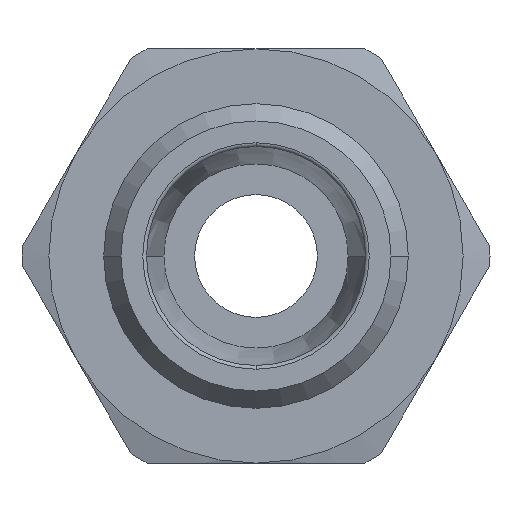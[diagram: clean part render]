
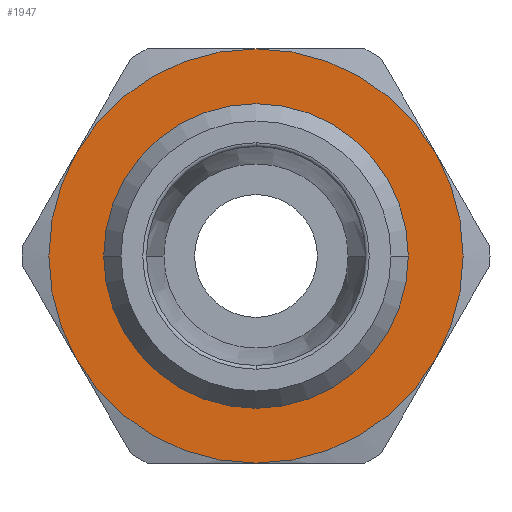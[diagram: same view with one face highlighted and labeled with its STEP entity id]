
A CAD part, left-side view. The second image highlights one B-rep face of the part: STEP entity #1947.
In plain terms, the highlighted planar face has unit normal (-1, 0, 0) as drawn and (0, 0, 1) by its records, which use the part's own axes.
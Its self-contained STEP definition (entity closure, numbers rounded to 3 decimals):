
#857=CARTESIAN_POINT('',(-9.8,0.,5.0));
#858=VERTEX_POINT('',#857);
#884=CARTESIAN_POINT('',(9.8,0.,5.0));
#885=VERTEX_POINT('',#884);
#893=CARTESIAN_POINT('',(0.,0.,5.0));
#894=DIRECTION('',(0.0,0.0,1.0));
#895=DIRECTION('',(-1.0,0.0,0.0));
#896=AXIS2_PLACEMENT_3D('',#893,#894,#895);
#897=CIRCLE('',#896,9.8);
#898=EDGE_CURVE('',#885,#858,#897,.T.);
#1827=CARTESIAN_POINT('',(0.,-9.8,5.));
#1828=VERTEX_POINT('',#1827);
#1829=CARTESIAN_POINT('',(0.,0.,5.0));
#1830=DIRECTION('',(0.0,0.0,1.0));
#1831=DIRECTION('',(-1.0,0.0,0.0));
#1832=AXIS2_PLACEMENT_3D('',#1829,#1830,#1831);
#1833=CIRCLE('',#1832,9.8);
#1834=EDGE_CURVE('',#858,#1828,#1833,.T.);
#1836=CARTESIAN_POINT('',(0.,0.,5.0));
#1837=DIRECTION('',(0.0,0.0,1.0));
#1838=DIRECTION('',(-1.0,0.0,0.0));
#1839=AXIS2_PLACEMENT_3D('',#1836,#1837,#1838);
#1840=CIRCLE('',#1839,9.8);
#1841=EDGE_CURVE('',#1828,#885,#1840,.T.);
#1881=CARTESIAN_POINT('',(0.,0.,5.0));
#1882=DIRECTION('',(0.0,0.0,1.0));
#1883=DIRECTION('',(1.0,0.0,0.0));
#1884=AXIS2_PLACEMENT_3D('',#1881,#1882,#1883);
#1885=PLANE('',#1884);
#1886=CARTESIAN_POINT('',(6.75,-11.691,5.));
#1887=VERTEX_POINT('',#1886);
#1888=CARTESIAN_POINT('',(13.5,0.0,5.));
#1889=VERTEX_POINT('',#1888);
#1890=CARTESIAN_POINT('',(0.,0.0,5.0));
#1891=DIRECTION('',(0.0,0.0,1.0));
#1892=DIRECTION('',(1.0,0.0,0.0));
#1893=AXIS2_PLACEMENT_3D('',#1890,#1891,#1892);
#1894=CIRCLE('',#1893,13.5);
#1895=EDGE_CURVE('',#1887,#1889,#1894,.T.);
#1896=ORIENTED_EDGE('',*,*,#1895,.T.);
#1897=CARTESIAN_POINT('',(6.75,11.691,5.));
#1898=VERTEX_POINT('',#1897);
#1899=CARTESIAN_POINT('',(0.,0.0,5.0));
#1900=DIRECTION('',(0.0,0.0,1.0));
#1901=DIRECTION('',(1.0,0.0,0.0));
#1902=AXIS2_PLACEMENT_3D('',#1899,#1900,#1901);
#1903=CIRCLE('',#1902,13.5);
#1904=EDGE_CURVE('',#1889,#1898,#1903,.T.);
#1905=ORIENTED_EDGE('',*,*,#1904,.T.);
#1906=CARTESIAN_POINT('',(-6.75,11.691,5.));
#1907=VERTEX_POINT('',#1906);
#1908=CARTESIAN_POINT('',(0.,0.0,5.0));
#1909=DIRECTION('',(0.0,0.0,1.0));
#1910=DIRECTION('',(1.0,0.0,0.0));
#1911=AXIS2_PLACEMENT_3D('',#1908,#1909,#1910);
#1912=CIRCLE('',#1911,13.5);
#1913=EDGE_CURVE('',#1898,#1907,#1912,.T.);
#1914=ORIENTED_EDGE('',*,*,#1913,.T.);
#1915=CARTESIAN_POINT('',(-13.5,0.,5.));
#1916=VERTEX_POINT('',#1915);
#1917=CARTESIAN_POINT('',(0.,0.0,5.0));
#1918=DIRECTION('',(0.0,0.0,1.0));
#1919=DIRECTION('',(1.0,0.0,0.0));
#1920=AXIS2_PLACEMENT_3D('',#1917,#1918,#1919);
#1921=CIRCLE('',#1920,13.5);
#1922=EDGE_CURVE('',#1907,#1916,#1921,.T.);
#1923=ORIENTED_EDGE('',*,*,#1922,.T.);
#1924=CARTESIAN_POINT('',(-6.75,-11.691,5.));
#1925=VERTEX_POINT('',#1924);
#1926=CARTESIAN_POINT('',(0.,0.0,5.0));
#1927=DIRECTION('',(0.0,0.0,1.0));
#1928=DIRECTION('',(1.0,0.0,0.0));
#1929=AXIS2_PLACEMENT_3D('',#1926,#1927,#1928);
#1930=CIRCLE('',#1929,13.5);
#1931=EDGE_CURVE('',#1916,#1925,#1930,.T.);
#1932=ORIENTED_EDGE('',*,*,#1931,.T.);
#1933=CARTESIAN_POINT('',(0.,0.0,5.0));
#1934=DIRECTION('',(0.0,0.0,1.0));
#1935=DIRECTION('',(1.0,0.0,0.0));
#1936=AXIS2_PLACEMENT_3D('',#1933,#1934,#1935);
#1937=CIRCLE('',#1936,13.5);
#1938=EDGE_CURVE('',#1925,#1887,#1937,.T.);
#1939=ORIENTED_EDGE('',*,*,#1938,.T.);
#1940=EDGE_LOOP('',(#1896,#1905,#1914,#1923,#1932,#1939));
#1941=FACE_OUTER_BOUND('',#1940,.T.);
#1942=ORIENTED_EDGE('',*,*,#1841,.F.);
#1943=ORIENTED_EDGE('',*,*,#1834,.F.);
#1944=ORIENTED_EDGE('',*,*,#898,.F.);
#1945=EDGE_LOOP('',(#1942,#1943,#1944));
#1946=FACE_BOUND('',#1945,.T.);
#1947=ADVANCED_FACE('',(#1941,#1946),#1885,.T.);
